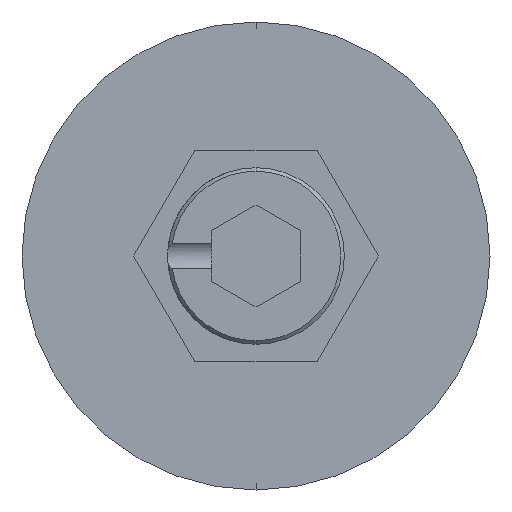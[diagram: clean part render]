
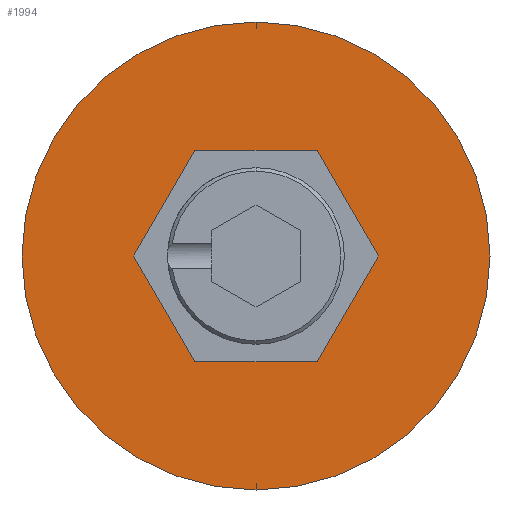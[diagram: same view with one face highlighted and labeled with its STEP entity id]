
A CAD part, front view. The second image highlights one B-rep face of the part: STEP entity #1994.
In plain terms, the highlighted planar face has unit normal (0, -1, 0).
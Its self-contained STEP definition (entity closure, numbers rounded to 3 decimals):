
#48 = AXIS2_PLACEMENT_3D ( 'NONE', #265, #1570, #706 ) ;
#99 = VERTEX_POINT ( 'NONE', #363 ) ;
#110 = ORIENTED_EDGE ( 'NONE', *, *, #1534, .F. ) ;
#118 = EDGE_CURVE ( 'NONE', #310, #653, #1191, .T. ) ;
#126 = DIRECTION ( 'NONE',  ( 0., -1., 0. ) ) ;
#146 = CARTESIAN_POINT ( 'NONE',  ( -3.464, 0., 6. ) ) ;
#167 = DIRECTION ( 'NONE',  ( 0., -1., 0. ) ) ;
#168 = VECTOR ( 'NONE', #768, 1000. ) ;
#197 = CARTESIAN_POINT ( 'NONE',  ( -3.464, 0., -6. ) ) ;
#200 = CARTESIAN_POINT ( 'NONE',  ( -3.464, 0., -6. ) ) ;
#263 = VERTEX_POINT ( 'NONE', #1808 ) ;
#265 = CARTESIAN_POINT ( 'NONE',  ( 0., 0., 0. ) ) ;
#299 = VECTOR ( 'NONE', #1353, 1000. ) ;
#304 = DIRECTION ( 'NONE',  ( 0., 0., -1. ) ) ;
#310 = VERTEX_POINT ( 'NONE', #547 ) ;
#320 = LINE ( 'NONE', #601, #791 ) ;
#325 = CARTESIAN_POINT ( 'NONE',  ( -3.464, 0., 6. ) ) ;
#348 = EDGE_CURVE ( 'NONE', #653, #310, #1705, .T. ) ;
#363 = CARTESIAN_POINT ( 'NONE',  ( -6.928, 0., 0. ) ) ;
#408 = DIRECTION ( 'NONE',  ( 0.5, 0., 0.866 ) ) ;
#417 = ORIENTED_EDGE ( 'NONE', *, *, #1988, .F. ) ;
#503 = VERTEX_POINT ( 'NONE', #197 ) ;
#518 = ORIENTED_EDGE ( 'NONE', *, *, #118, .T. ) ;
#524 = ORIENTED_EDGE ( 'NONE', *, *, #1614, .F. ) ;
#539 = CARTESIAN_POINT ( 'NONE',  ( 0., 0., 0. ) ) ;
#547 = CARTESIAN_POINT ( 'NONE',  ( 0., 0., -13.25 ) ) ;
#550 = CARTESIAN_POINT ( 'NONE',  ( 3.464, 0., -6. ) ) ;
#601 = CARTESIAN_POINT ( 'NONE',  ( -6.928, 0., 0. ) ) ;
#653 = VERTEX_POINT ( 'NONE', #1465 ) ;
#706 = DIRECTION ( 'NONE',  ( 0., 0., -1. ) ) ;
#709 = EDGE_LOOP ( 'NONE', ( #518, #1247 ) ) ;
#756 = AXIS2_PLACEMENT_3D ( 'NONE', #539, #167, #1551 ) ;
#768 = DIRECTION ( 'NONE',  ( -1., 0., 0. ) ) ;
#791 = VECTOR ( 'NONE', #1242, 1000. ) ;
#842 = ORIENTED_EDGE ( 'NONE', *, *, #1791, .F. ) ;
#892 = FACE_BOUND ( 'NONE', #1951, .T. ) ;
#910 = EDGE_CURVE ( 'NONE', #503, #1581, #2138, .T. ) ;
#927 = VECTOR ( 'NONE', #1312, 1000. ) ;
#1083 = AXIS2_PLACEMENT_3D ( 'NONE', #1203, #126, #304 ) ;
#1103 = FACE_OUTER_BOUND ( 'NONE', #709, .T. ) ;
#1174 = EDGE_CURVE ( 'NONE', #1339, #99, #1377, .T. ) ;
#1191 = CIRCLE ( 'NONE', #1083, 13.25 ) ;
#1203 = CARTESIAN_POINT ( 'NONE',  ( 0., 0., 0. ) ) ;
#1204 = LINE ( 'NONE', #1731, #299 ) ;
#1237 = LINE ( 'NONE', #550, #1642 ) ;
#1242 = DIRECTION ( 'NONE',  ( 0.5, 0., -0.866 ) ) ;
#1247 = ORIENTED_EDGE ( 'NONE', *, *, #348, .T. ) ;
#1301 = CARTESIAN_POINT ( 'NONE',  ( 6.928, 0., 0. ) ) ;
#1312 = DIRECTION ( 'NONE',  ( -0.5, 0., -0.866 ) ) ;
#1339 = VERTEX_POINT ( 'NONE', #325 ) ;
#1353 = DIRECTION ( 'NONE',  ( -0.5, 0., 0.866 ) ) ;
#1377 = LINE ( 'NONE', #146, #927 ) ;
#1379 = PLANE ( 'NONE',  #48 ) ;
#1465 = CARTESIAN_POINT ( 'NONE',  ( 0., 0., 13.25 ) ) ;
#1534 = EDGE_CURVE ( 'NONE', #1581, #1758, #1237, .T. ) ;
#1535 = LINE ( 'NONE', #1934, #168 ) ;
#1551 = DIRECTION ( 'NONE',  ( 0., 0., -1. ) ) ;
#1570 = DIRECTION ( 'NONE',  ( 0., -1., 0. ) ) ;
#1581 = VERTEX_POINT ( 'NONE', #2146 ) ;
#1614 = EDGE_CURVE ( 'NONE', #263, #1339, #1535, .T. ) ;
#1642 = VECTOR ( 'NONE', #408, 1000. ) ;
#1705 = CIRCLE ( 'NONE', #756, 13.25 ) ;
#1731 = CARTESIAN_POINT ( 'NONE',  ( 6.928, 0., 0. ) ) ;
#1736 = VECTOR ( 'NONE', #1892, 1000. ) ;
#1758 = VERTEX_POINT ( 'NONE', #1301 ) ;
#1791 = EDGE_CURVE ( 'NONE', #1758, #263, #1204, .T. ) ;
#1808 = CARTESIAN_POINT ( 'NONE',  ( 3.464, 0., 6. ) ) ;
#1815 = ORIENTED_EDGE ( 'NONE', *, *, #1174, .F. ) ;
#1881 = ORIENTED_EDGE ( 'NONE', *, *, #910, .F. ) ;
#1892 = DIRECTION ( 'NONE',  ( 1., 0., 0. ) ) ;
#1934 = CARTESIAN_POINT ( 'NONE',  ( 3.464, 0., 6. ) ) ;
#1951 = EDGE_LOOP ( 'NONE', ( #1881, #417, #1815, #524, #842, #110 ) ) ;
#1988 = EDGE_CURVE ( 'NONE', #99, #503, #320, .T. ) ;
#1994 = ADVANCED_FACE ( 'NONE', ( #892, #1103 ), #1379, .T. ) ;
#2138 = LINE ( 'NONE', #200, #1736 ) ;
#2146 = CARTESIAN_POINT ( 'NONE',  ( 3.464, 0., -6. ) ) ;
